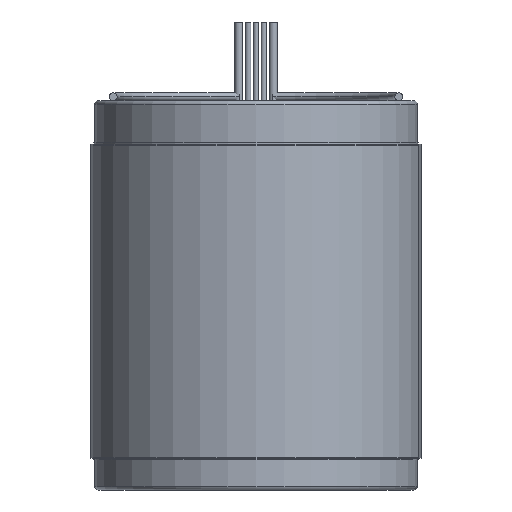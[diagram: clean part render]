
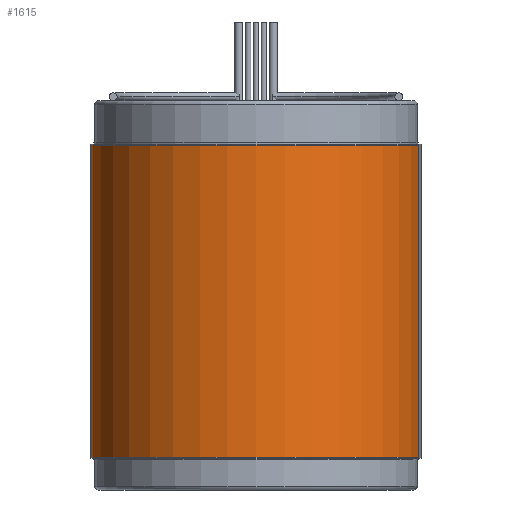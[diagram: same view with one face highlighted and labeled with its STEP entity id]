
A CAD part, front view. The second image highlights one B-rep face of the part: STEP entity #1615.
In plain terms, the highlighted cylindrical face has radius 53.34 mm (diameter 106.68 mm), a partial arc.
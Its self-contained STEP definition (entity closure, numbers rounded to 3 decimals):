
#79 = EDGE_CURVE ( 'NONE', #2754, #2620, #123, .T. ) ;
#123 = LINE ( 'NONE', #2443, #2593 ) ;
#370 = DIRECTION ( 'NONE',  ( 0., 0., 1. ) ) ;
#379 = ORIENTED_EDGE ( 'NONE', *, *, #1503, .T. ) ;
#537 = VERTEX_POINT ( 'NONE', #889 ) ;
#543 = EDGE_CURVE ( 'NONE', #2620, #1194, #1283, .T. ) ;
#747 = CARTESIAN_POINT ( 'NONE',  ( -53.34, 0., -50.444 ) ) ;
#775 = CARTESIAN_POINT ( 'NONE',  ( 53.34, 0., -51.156 ) ) ;
#879 = CARTESIAN_POINT ( 'NONE',  ( 0., 0., 50.444 ) ) ;
#889 = CARTESIAN_POINT ( 'NONE',  ( 53.34, 0., -50.444 ) ) ;
#1000 = DIRECTION ( 'NONE',  ( 1., 0., 0. ) ) ;
#1104 = ORIENTED_EDGE ( 'NONE', *, *, #1900, .T. ) ;
#1194 = VERTEX_POINT ( 'NONE', #2095 ) ;
#1241 = CARTESIAN_POINT ( 'NONE',  ( 0., 0., -51.156 ) ) ;
#1283 = CIRCLE ( 'NONE', #1504, 53.34 ) ;
#1377 = DIRECTION ( 'NONE',  ( 0., 0., 1. ) ) ;
#1456 = CIRCLE ( 'NONE', #1850, 53.34 ) ;
#1503 = EDGE_CURVE ( 'NONE', #537, #1194, #1839, .T. ) ;
#1504 = AXIS2_PLACEMENT_3D ( 'NONE', #879, #1505, #1947 ) ;
#1505 = DIRECTION ( 'NONE',  ( 0., 0., 1. ) ) ;
#1568 = DIRECTION ( 'NONE',  ( 0., 0., 1. ) ) ;
#1615 = ADVANCED_FACE ( 'NONE', ( #1659 ), #2006, .T. ) ;
#1659 = FACE_OUTER_BOUND ( 'NONE', #2117, .T. ) ;
#1767 = VECTOR ( 'NONE', #1377, 1000. ) ;
#1772 = ORIENTED_EDGE ( 'NONE', *, *, #543, .F. ) ;
#1839 = LINE ( 'NONE', #775, #1767 ) ;
#1850 = AXIS2_PLACEMENT_3D ( 'NONE', #2494, #2481, #2270 ) ;
#1900 = EDGE_CURVE ( 'NONE', #2754, #537, #1456, .T. ) ;
#1947 = DIRECTION ( 'NONE',  ( 1., 0., 0. ) ) ;
#2006 = CYLINDRICAL_SURFACE ( 'NONE', #2597, 53.34 ) ;
#2095 = CARTESIAN_POINT ( 'NONE',  ( 53.34, 0., 50.444 ) ) ;
#2117 = EDGE_LOOP ( 'NONE', ( #2840, #1104, #379, #1772 ) ) ;
#2270 = DIRECTION ( 'NONE',  ( 1., 0., 0. ) ) ;
#2443 = CARTESIAN_POINT ( 'NONE',  ( -53.34, 0., -51.156 ) ) ;
#2481 = DIRECTION ( 'NONE',  ( 0., 0., 1. ) ) ;
#2494 = CARTESIAN_POINT ( 'NONE',  ( 0., 0., -50.444 ) ) ;
#2593 = VECTOR ( 'NONE', #1568, 1000. ) ;
#2597 = AXIS2_PLACEMENT_3D ( 'NONE', #1241, #370, #1000 ) ;
#2620 = VERTEX_POINT ( 'NONE', #2657 ) ;
#2657 = CARTESIAN_POINT ( 'NONE',  ( -53.34, 0., 50.444 ) ) ;
#2754 = VERTEX_POINT ( 'NONE', #747 ) ;
#2840 = ORIENTED_EDGE ( 'NONE', *, *, #79, .F. ) ;
